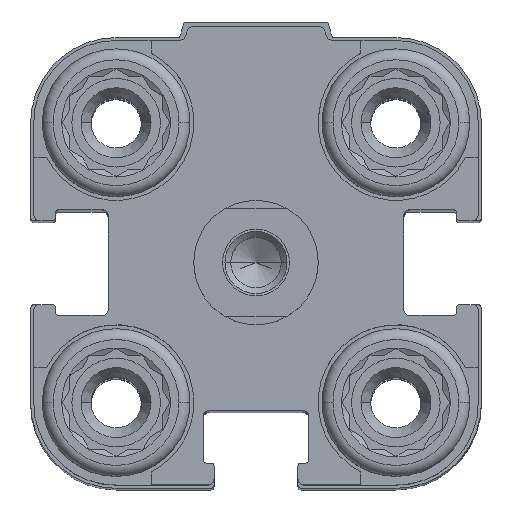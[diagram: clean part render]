
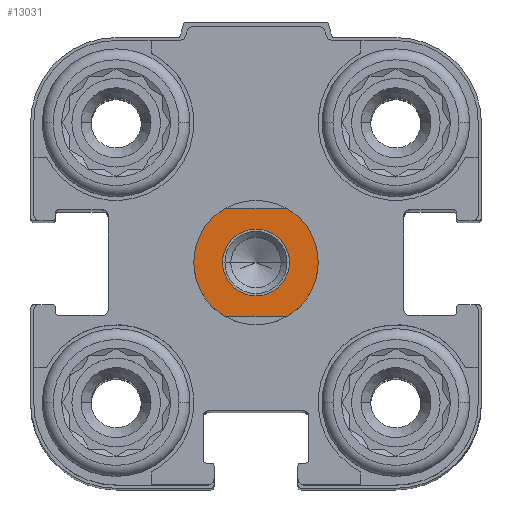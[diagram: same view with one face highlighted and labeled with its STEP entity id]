
A CAD part, top view. The second image highlights one B-rep face of the part: STEP entity #13031.
In plain terms, the highlighted planar face has unit normal (0, 0, 1).
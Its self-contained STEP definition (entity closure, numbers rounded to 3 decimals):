
#92 = VECTOR ( 'NONE', #4861, 1000. ) ;
#306 = PLANE ( 'NONE',  #3128 ) ;
#364 = CARTESIAN_POINT ( 'NONE',  ( -2.15, 0., 4.5 ) ) ;
#419 = CARTESIAN_POINT ( 'NONE',  ( 0., 0., 4.5 ) ) ;
#1084 = DIRECTION ( 'NONE',  ( 0., 0., -1. ) ) ;
#1191 = ORIENTED_EDGE ( 'NONE', *, *, #2378, .F. ) ;
#1417 = CARTESIAN_POINT ( 'NONE',  ( 2.15, 0., 4.5 ) ) ;
#1562 = DIRECTION ( 'NONE',  ( 0., 1., 0. ) ) ;
#1687 = CIRCLE ( 'NONE', #17171, 4. ) ;
#1721 = EDGE_CURVE ( 'NONE', #7615, #5074, #7868, .T. ) ;
#2002 = CARTESIAN_POINT ( 'NONE',  ( 0., 0., 4.5 ) ) ;
#2007 = ORIENTED_EDGE ( 'NONE', *, *, #7870, .T. ) ;
#2032 = CARTESIAN_POINT ( 'NONE',  ( -1.936, 3.5, 4.5 ) ) ;
#2249 = CARTESIAN_POINT ( 'NONE',  ( 1.936, 3.5, 4.5 ) ) ;
#2378 = EDGE_CURVE ( 'NONE', #15579, #5064, #1687, .T. ) ;
#2495 = EDGE_CURVE ( 'NONE', #15859, #15579, #15456, .T. ) ;
#2556 = CARTESIAN_POINT ( 'NONE',  ( 7., -3.5, 4.5 ) ) ;
#2659 = ORIENTED_EDGE ( 'NONE', *, *, #13253, .T. ) ;
#2911 = FACE_OUTER_BOUND ( 'NONE', #6307, .T. ) ;
#2945 = AXIS2_PLACEMENT_3D ( 'NONE', #5858, #11346, #4515 ) ;
#2996 = CARTESIAN_POINT ( 'NONE',  ( 4., 0., 4.5 ) ) ;
#3002 = CARTESIAN_POINT ( 'NONE',  ( 0., 0., 4.5 ) ) ;
#3128 = AXIS2_PLACEMENT_3D ( 'NONE', #3002, #8388, #1562 ) ;
#4088 = CARTESIAN_POINT ( 'NONE',  ( 0., 0., 4.5 ) ) ;
#4115 = DIRECTION ( 'NONE',  ( 0., 0., -1. ) ) ;
#4417 = DIRECTION ( 'NONE',  ( -1., 0., 0. ) ) ;
#4515 = DIRECTION ( 'NONE',  ( -1., 0., 0. ) ) ;
#4544 = DIRECTION ( 'NONE',  ( -1., 0., 0. ) ) ;
#4861 = DIRECTION ( 'NONE',  ( 1., 0., 0. ) ) ;
#5064 = VERTEX_POINT ( 'NONE', #2032 ) ;
#5074 = VERTEX_POINT ( 'NONE', #6328 ) ;
#5210 = EDGE_CURVE ( 'NONE', #5074, #15859, #13608, .T. ) ;
#5449 = CARTESIAN_POINT ( 'NONE',  ( 0., 0., 4.5 ) ) ;
#5858 = CARTESIAN_POINT ( 'NONE',  ( 0., 0., 4.5 ) ) ;
#5887 = DIRECTION ( 'NONE',  ( 0., 0., -1. ) ) ;
#5905 = ORIENTED_EDGE ( 'NONE', *, *, #1721, .F. ) ;
#6307 = EDGE_LOOP ( 'NONE', ( #11238, #1191, #14858, #12199, #5905, #7442 ) ) ;
#6328 = CARTESIAN_POINT ( 'NONE',  ( 1.936, -3.5, 4.5 ) ) ;
#6862 = DIRECTION ( 'NONE',  ( -1., 0., 0. ) ) ;
#7088 = CARTESIAN_POINT ( 'NONE',  ( -4., 0., 4.5 ) ) ;
#7198 = AXIS2_PLACEMENT_3D ( 'NONE', #4088, #15449, #4417 ) ;
#7442 = ORIENTED_EDGE ( 'NONE', *, *, #16765, .F. ) ;
#7561 = CARTESIAN_POINT ( 'NONE',  ( -7., 3.5, 4.5 ) ) ;
#7615 = VERTEX_POINT ( 'NONE', #2996 ) ;
#7749 = EDGE_CURVE ( 'NONE', #5064, #13247, #17167, .T. ) ;
#7868 = CIRCLE ( 'NONE', #17068, 4. ) ;
#7870 = EDGE_CURVE ( 'NONE', #14832, #13329, #12410, .T. ) ;
#8281 = CIRCLE ( 'NONE', #9420, 2.15 ) ;
#8388 = DIRECTION ( 'NONE',  ( 0., 0., -1. ) ) ;
#8568 = AXIS2_PLACEMENT_3D ( 'NONE', #419, #5887, #4544 ) ;
#8818 = DIRECTION ( 'NONE',  ( 0., 0., -1. ) ) ;
#9348 = CARTESIAN_POINT ( 'NONE',  ( 0., 0., 4.5 ) ) ;
#9420 = AXIS2_PLACEMENT_3D ( 'NONE', #9348, #1084, #11948 ) ;
#9585 = DIRECTION ( 'NONE',  ( -1., 0., 0. ) ) ;
#9909 = DIRECTION ( 'NONE',  ( -1., 0., 0. ) ) ;
#11238 = ORIENTED_EDGE ( 'NONE', *, *, #7749, .F. ) ;
#11346 = DIRECTION ( 'NONE',  ( 0., 0., -1. ) ) ;
#11948 = DIRECTION ( 'NONE',  ( -1., 0., 0. ) ) ;
#12130 = EDGE_LOOP ( 'NONE', ( #2659, #2007 ) ) ;
#12199 = ORIENTED_EDGE ( 'NONE', *, *, #5210, .F. ) ;
#12246 = FACE_BOUND ( 'NONE', #12130, .T. ) ;
#12410 = CIRCLE ( 'NONE', #2945, 2.15 ) ;
#13031 = ADVANCED_FACE ( 'NONE', ( #2911, #12246 ), #306, .F. ) ;
#13214 = VECTOR ( 'NONE', #6862, 1000. ) ;
#13247 = VERTEX_POINT ( 'NONE', #2249 ) ;
#13253 = EDGE_CURVE ( 'NONE', #13329, #14832, #8281, .T. ) ;
#13329 = VERTEX_POINT ( 'NONE', #364 ) ;
#13608 = LINE ( 'NONE', #2556, #13214 ) ;
#14623 = CARTESIAN_POINT ( 'NONE',  ( -1.936, -3.5, 4.5 ) ) ;
#14832 = VERTEX_POINT ( 'NONE', #1417 ) ;
#14858 = ORIENTED_EDGE ( 'NONE', *, *, #2495, .F. ) ;
#14950 = CIRCLE ( 'NONE', #7198, 4. ) ;
#15449 = DIRECTION ( 'NONE',  ( 0., 0., -1. ) ) ;
#15456 = CIRCLE ( 'NONE', #8568, 4. ) ;
#15579 = VERTEX_POINT ( 'NONE', #7088 ) ;
#15859 = VERTEX_POINT ( 'NONE', #14623 ) ;
#16765 = EDGE_CURVE ( 'NONE', #13247, #7615, #14950, .T. ) ;
#17068 = AXIS2_PLACEMENT_3D ( 'NONE', #2002, #8818, #9909 ) ;
#17167 = LINE ( 'NONE', #7561, #92 ) ;
#17171 = AXIS2_PLACEMENT_3D ( 'NONE', #5449, #4115, #9585 ) ;
